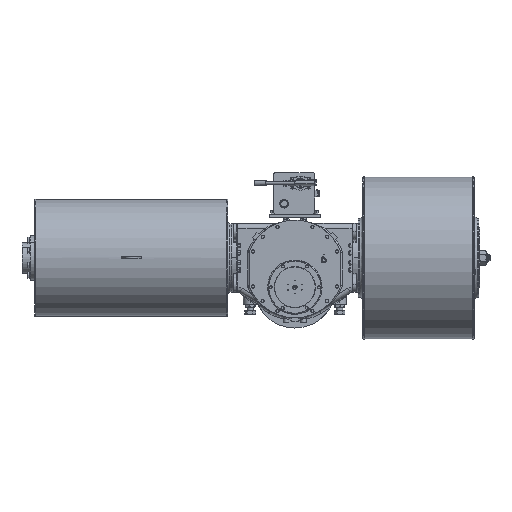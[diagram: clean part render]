
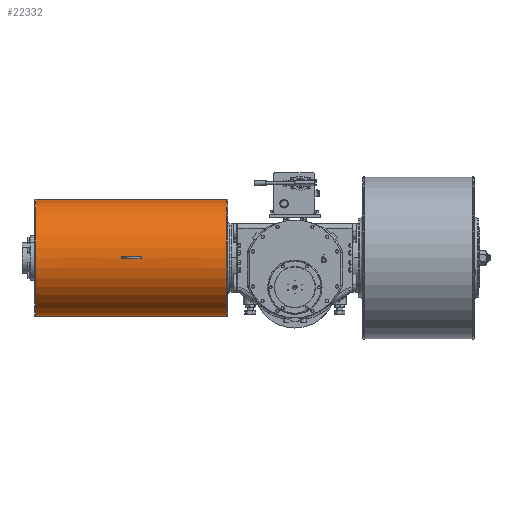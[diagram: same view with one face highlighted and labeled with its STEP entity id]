
A CAD part, top view. The second image highlights one B-rep face of the part: STEP entity #22332.
In plain terms, the highlighted cylindrical face has radius 340 mm (diameter 680 mm), a partial arc.
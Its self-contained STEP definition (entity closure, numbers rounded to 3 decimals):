
#1969 = VERTEX_POINT ( 'NONE', #73685 ) ;
#2491 = CIRCLE ( 'NONE', #36853, 340. ) ;
#2550 = VERTEX_POINT ( 'NONE', #18159 ) ;
#2732 = CARTESIAN_POINT ( 'NONE',  ( -1502., -169., 138. ) ) ;
#2820 = VERTEX_POINT ( 'NONE', #39976 ) ;
#5193 = AXIS2_PLACEMENT_3D ( 'NONE', #83031, #48663, #49199 ) ;
#5487 = FACE_BOUND ( 'NONE', #71745, .T. ) ;
#7910 = CIRCLE ( 'NONE', #88523, 340. ) ;
#10776 = CARTESIAN_POINT ( 'NONE',  ( -395.885, 171., 138. ) ) ;
#10870 = ORIENTED_EDGE ( 'NONE', *, *, #57298, .T. ) ;
#11218 = ORIENTED_EDGE ( 'NONE', *, *, #46437, .F. ) ;
#11843 = LINE ( 'NONE', #2732, #93328 ) ;
#12737 = DIRECTION ( 'NONE',  ( -1., 0., 0. ) ) ;
#13131 = CIRCLE ( 'NONE', #37144, 340. ) ;
#13149 = ORIENTED_EDGE ( 'NONE', *, *, #82306, .T. ) ;
#14633 = LINE ( 'NONE', #86659, #86469 ) ;
#14721 = VECTOR ( 'NONE', #50610, 1000. ) ;
#17101 = CIRCLE ( 'NONE', #41349, 340. ) ;
#17263 = CARTESIAN_POINT ( 'NONE',  ( -395.885, -169., 138. ) ) ;
#18159 = CARTESIAN_POINT ( 'NONE',  ( -892., 166., 477.963 ) ) ;
#20797 = DIRECTION ( 'NONE',  ( 0., 0., 1. ) ) ;
#22332 = ADVANCED_FACE ( 'NONE', ( #5487, #88716 ), #54915, .T. ) ;
#24055 = ORIENTED_EDGE ( 'NONE', *, *, #80189, .T. ) ;
#26054 = DIRECTION ( 'NONE',  ( 1., 0., 0. ) ) ;
#27161 = CARTESIAN_POINT ( 'NONE',  ( -1508.115, -169., 138. ) ) ;
#27387 = EDGE_CURVE ( 'NONE', #29396, #2820, #7910, .T. ) ;
#27812 = DIRECTION ( 'NONE',  ( 1., 0., 0. ) ) ;
#28870 = DIRECTION ( 'NONE',  ( 0., -1., 0. ) ) ;
#29396 = VERTEX_POINT ( 'NONE', #17263 ) ;
#31366 = ORIENTED_EDGE ( 'NONE', *, *, #44271, .F. ) ;
#33968 = DIRECTION ( 'NONE',  ( 1., 0., 0. ) ) ;
#34428 = DIRECTION ( 'NONE',  ( -1., 0., 0. ) ) ;
#36853 = AXIS2_PLACEMENT_3D ( 'NONE', #86326, #12737, #20797 ) ;
#36868 = DIRECTION ( 'NONE',  ( -1., 0., 0. ) ) ;
#37144 = AXIS2_PLACEMENT_3D ( 'NONE', #75393, #33968, #76455 ) ;
#38244 = DIRECTION ( 'NONE',  ( 1., 0., 0. ) ) ;
#39976 = CARTESIAN_POINT ( 'NONE',  ( -395.885, 511., 138. ) ) ;
#40113 = AXIS2_PLACEMENT_3D ( 'NONE', #72108, #38244, #104805 ) ;
#40585 = CARTESIAN_POINT ( 'NONE',  ( -1502., 511., 138. ) ) ;
#41108 = ORIENTED_EDGE ( 'NONE', *, *, #75864, .T. ) ;
#41349 = AXIS2_PLACEMENT_3D ( 'NONE', #85750, #36868, #69698 ) ;
#43558 = DIRECTION ( 'NONE',  ( 0., 1., 0. ) ) ;
#44271 = EDGE_CURVE ( 'NONE', #85703, #2550, #57091, .T. ) ;
#46437 = EDGE_CURVE ( 'NONE', #1969, #2820, #57790, .T. ) ;
#47723 = EDGE_CURVE ( 'NONE', #1969, #66426, #101176, .T. ) ;
#48663 = DIRECTION ( 'NONE',  ( 1., 0., 0. ) ) ;
#48950 = CARTESIAN_POINT ( 'NONE',  ( -1012., 166., 477.963 ) ) ;
#49151 = EDGE_CURVE ( 'NONE', #85703, #97899, #17101, .T. ) ;
#49199 = DIRECTION ( 'NONE',  ( 0., 1., 0. ) ) ;
#49535 = CARTESIAN_POINT ( 'NONE',  ( -1502., 166., 477.963 ) ) ;
#50554 = DIRECTION ( 'NONE',  ( 1., 0., 0. ) ) ;
#50610 = DIRECTION ( 'NONE',  ( 1., 0., 0. ) ) ;
#51482 = CARTESIAN_POINT ( 'NONE',  ( -892., 171., 138. ) ) ;
#54915 = CYLINDRICAL_SURFACE ( 'NONE', #40113, 340. ) ;
#56477 = VERTEX_POINT ( 'NONE', #96224 ) ;
#56999 = CARTESIAN_POINT ( 'NONE',  ( -892., 171., 478. ) ) ;
#57091 = LINE ( 'NONE', #49535, #14721 ) ;
#57298 = EDGE_CURVE ( 'NONE', #56477, #89766, #13131, .T. ) ;
#57790 = LINE ( 'NONE', #40585, #100944 ) ;
#60372 = VERTEX_POINT ( 'NONE', #102263 ) ;
#61382 = ORIENTED_EDGE ( 'NONE', *, *, #49151, .T. ) ;
#66426 = VERTEX_POINT ( 'NONE', #27161 ) ;
#69698 = DIRECTION ( 'NONE',  ( 0., 0., 1. ) ) ;
#71745 = EDGE_LOOP ( 'NONE', ( #61382, #24055, #87867, #10870, #41108, #31366 ) ) ;
#72108 = CARTESIAN_POINT ( 'NONE',  ( -1502., 171., 138. ) ) ;
#73685 = CARTESIAN_POINT ( 'NONE',  ( -1508.115, 511., 138. ) ) ;
#75393 = CARTESIAN_POINT ( 'NONE',  ( -892., 171., 138. ) ) ;
#75864 = EDGE_CURVE ( 'NONE', #89766, #2550, #101482, .T. ) ;
#76455 = DIRECTION ( 'NONE',  ( 0., -1., 0. ) ) ;
#77951 = EDGE_CURVE ( 'NONE', #60372, #56477, #14633, .T. ) ;
#78670 = EDGE_LOOP ( 'NONE', ( #85940, #13149, #93869, #11218 ) ) ;
#80189 = EDGE_CURVE ( 'NONE', #97899, #60372, #2491, .T. ) ;
#81028 = CARTESIAN_POINT ( 'NONE',  ( -1012., 171., 478. ) ) ;
#82306 = EDGE_CURVE ( 'NONE', #66426, #29396, #11843, .T. ) ;
#83031 = CARTESIAN_POINT ( 'NONE',  ( -1508.115, 171., 138. ) ) ;
#85703 = VERTEX_POINT ( 'NONE', #48950 ) ;
#85750 = CARTESIAN_POINT ( 'NONE',  ( -1012., 171., 138. ) ) ;
#85940 = ORIENTED_EDGE ( 'NONE', *, *, #47723, .T. ) ;
#86326 = CARTESIAN_POINT ( 'NONE',  ( -1012., 171., 138. ) ) ;
#86469 = VECTOR ( 'NONE', #103288, 1000. ) ;
#86659 = CARTESIAN_POINT ( 'NONE',  ( -1502., 176., 477.963 ) ) ;
#87867 = ORIENTED_EDGE ( 'NONE', *, *, #77951, .T. ) ;
#88523 = AXIS2_PLACEMENT_3D ( 'NONE', #10776, #34428, #43558 ) ;
#88716 = FACE_OUTER_BOUND ( 'NONE', #78670, .T. ) ;
#89766 = VERTEX_POINT ( 'NONE', #56999 ) ;
#92916 = AXIS2_PLACEMENT_3D ( 'NONE', #51482, #27812, #28870 ) ;
#93328 = VECTOR ( 'NONE', #50554, 1000. ) ;
#93869 = ORIENTED_EDGE ( 'NONE', *, *, #27387, .T. ) ;
#96224 = CARTESIAN_POINT ( 'NONE',  ( -892., 176., 477.963 ) ) ;
#97899 = VERTEX_POINT ( 'NONE', #81028 ) ;
#100944 = VECTOR ( 'NONE', #26054, 1000. ) ;
#101176 = CIRCLE ( 'NONE', #5193, 340. ) ;
#101482 = CIRCLE ( 'NONE', #92916, 340. ) ;
#102263 = CARTESIAN_POINT ( 'NONE',  ( -1012., 176., 477.963 ) ) ;
#103288 = DIRECTION ( 'NONE',  ( 1., 0., 0. ) ) ;
#104805 = DIRECTION ( 'NONE',  ( 0., 1., 0. ) ) ;
